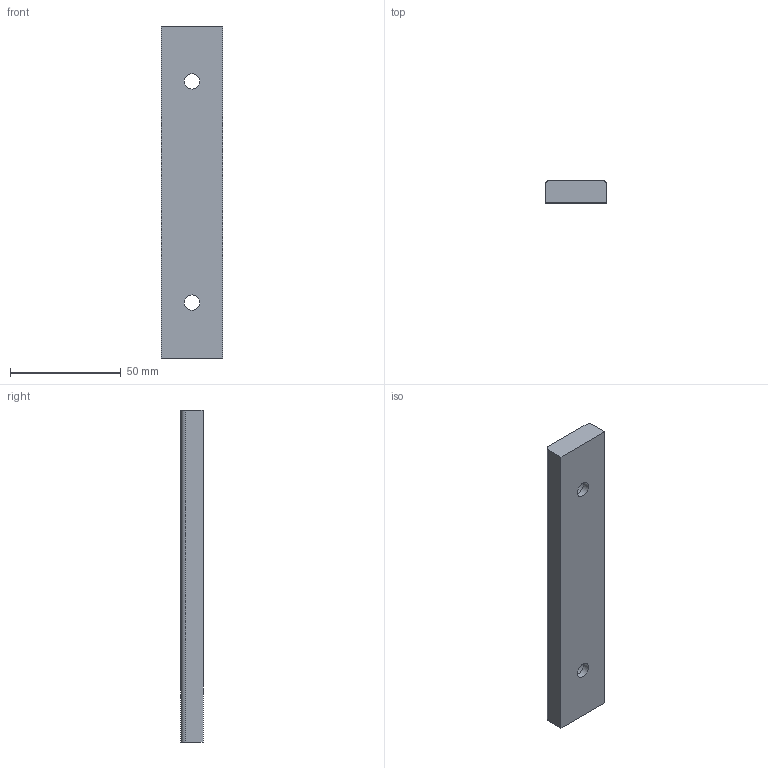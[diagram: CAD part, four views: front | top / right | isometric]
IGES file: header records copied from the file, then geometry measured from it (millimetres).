
Start section: Data from Parasolid IGES Translator 20.0.26, Copyright(c) 2006 Siemens P LM Software. All Rights Reserved.
Global section: file name: G220-01-028-150.igs; native system: By Siemens PLM Incorporated; preprocessor: XPlus GENERIC/IGES 20.0.26; author: Noname; organization: Noname; date: 20190708.081557; units: millimetre
Bounding box: 28 x 10 x 150 mm (x, y, z)
Surface area: 12160.9 mm2 (no closed solid volume)
Topology: 0 solids, 0 shells, 14 faces, 60 edges, 57 vertices
Faces by surface type: extrusion 8, revolution 6
